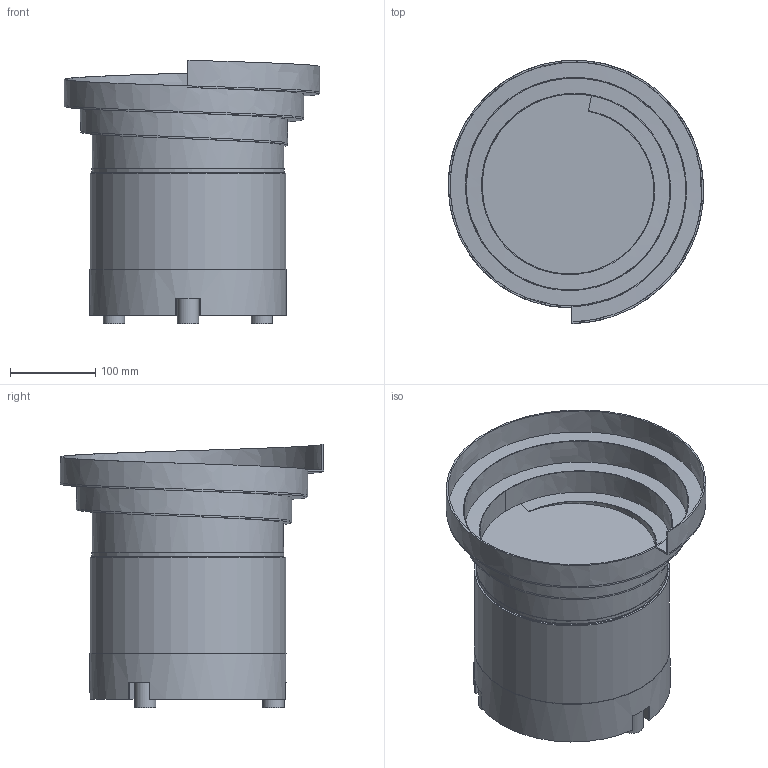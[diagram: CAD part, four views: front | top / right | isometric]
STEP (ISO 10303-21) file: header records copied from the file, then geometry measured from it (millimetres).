
FILE_DESCRIPTION(/* description */ (''),/* implementation_level */ '2;1');
FILE_NAME(/* name */ 'C:\Users\Rademacher\Desktop\VWF\530-230-1100-00-VWF-2-Stufenaufsatz-rechts.stp',/* time_stamp */ '2019-12-20T11:56:35+01:00',/* author */ ('Rademacher'),/* organization */ (''),/* preprocessor_version */ 'ST-DEVELOPER v17',/* originating_system */ 'Autodesk Inventor 2019',/* authorisation */ '');
FILE_SCHEMA (('AUTOMOTIVE_DESIGN { 1 0 10303 214 3 1 1 }'));
Length unit declared in the file: millimetre
Products named in the file (6): 530-230-1100-00-VWF-2-Stufenaufsatz-rechts; 230-1100-01-Unterteil; Elastikpuffer_25x30_M5; 230-1100-02-Oberteil; Mantel_neu; VWF2 Stufenaufsatz rechts
Assembly tree (7 placements, depth 2):
  530-230-1100-00-VWF-2-Stufenaufsatz-rechts
    230-1100-01-Unterteil
    Elastikpuffer_25x30_M5  x3
    230-1100-02-Oberteil
    Mantel_neu
    VWF2 Stufenaufsatz rechts
Bounding box: 298.98 x 308.23 x 308.5 mm (x, y, z)
Volume: 4253436.7 mm3; surface area: 749182.7 mm2
Topology: 7 solids, 8 shells, 136 faces, 383 edges, 269 vertices
Faces by surface type: cylinder 54, plane 37, cone 35, bspline 10
Full cylindrical faces by diameter (mm): 3.3 x2, 4.917 x9, 5 x15, 6 x3, 6.8 x9, 8.5 x1, 25 x3, 220 x2, 224 x1, 225 x3, 229 x1, 230 x1
Entity records: 8926 total; most frequent: CARTESIAN_POINT 5423, DIRECTION 725, ORIENTED_EDGE 650, EDGE_CURVE 325, AXIS2_PLACEMENT_3D 297, VERTEX_POINT 252, CIRCLE 172, EDGE_LOOP 163
